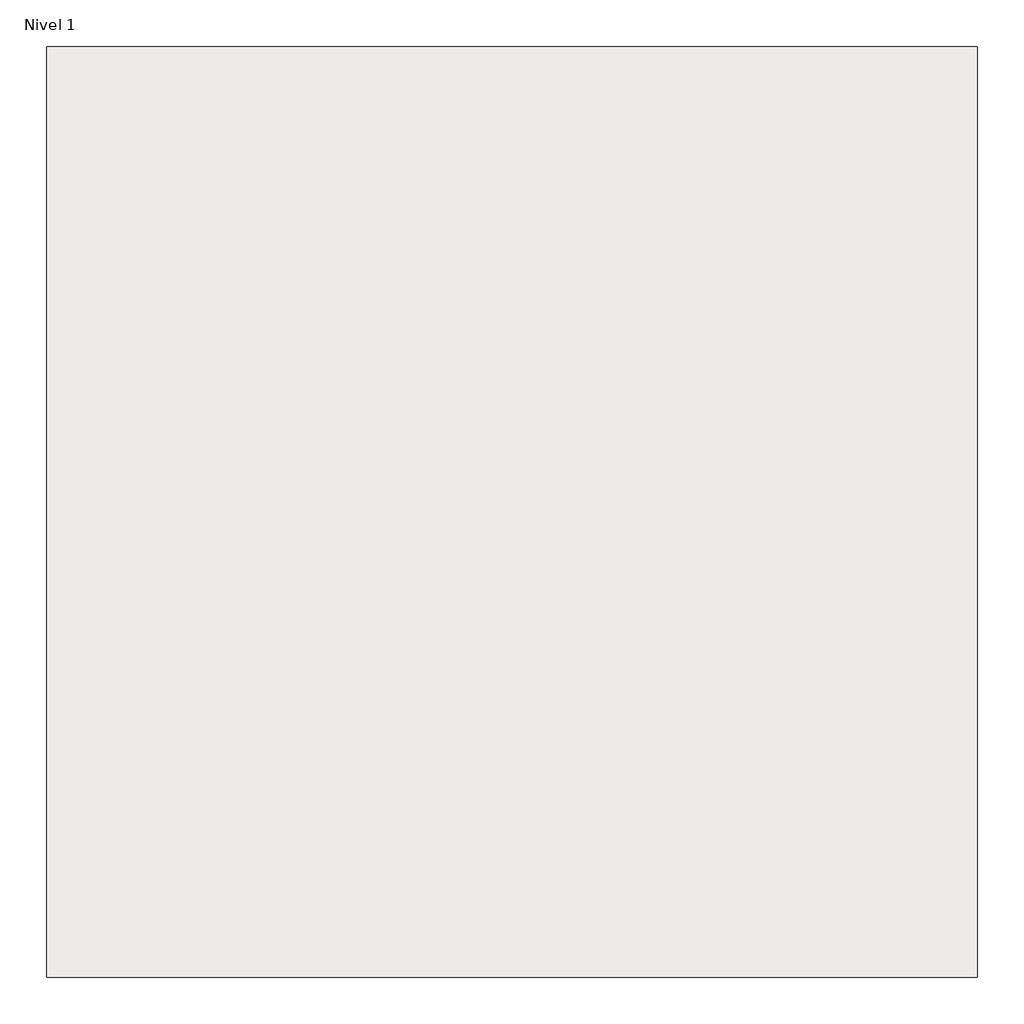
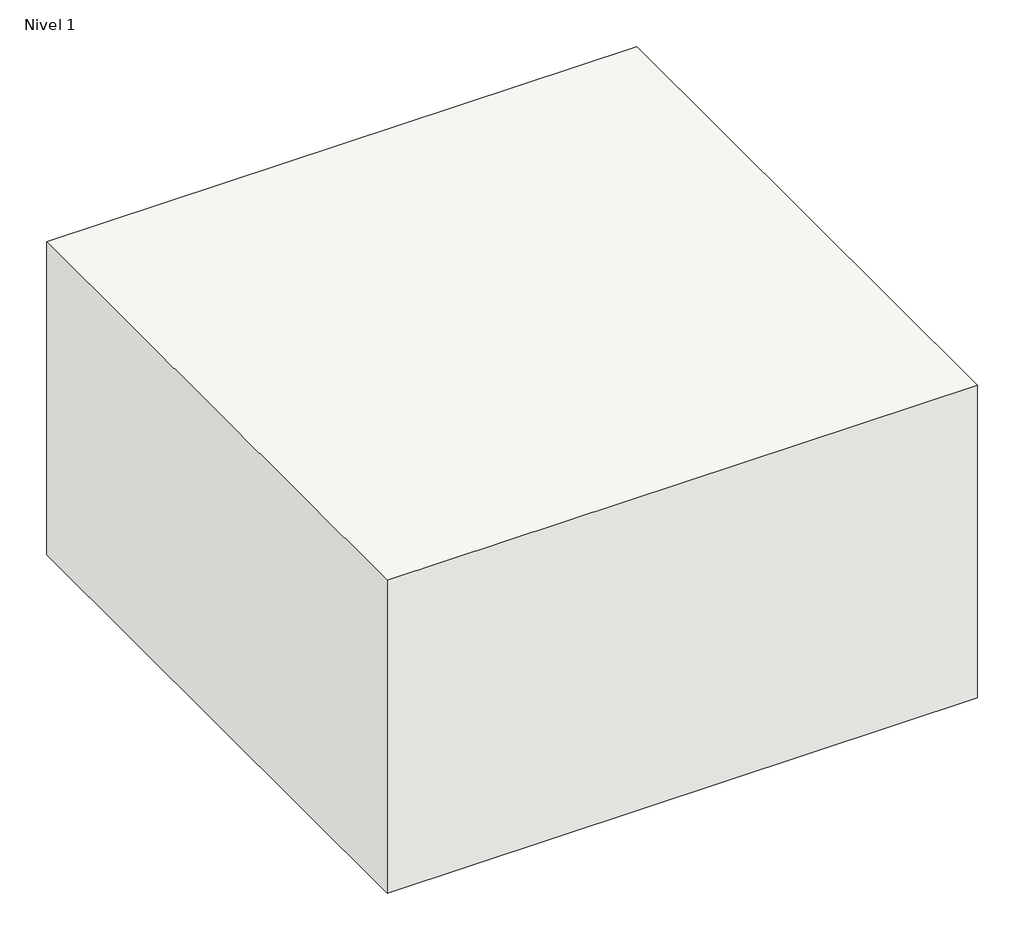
# One storey: 1 roof.
"""IFC4 building model written with IfcOpenShell, lengths in millimetres."""

from ifc_helpers import new_model, si_unit, origin, origin_with_axes, place, context, project, spatial, polyline, outline, extrude, element, save

model = new_model("IFC4")

# Units and contexts
model_context = context("Model", 3, world=origin())
ifc_project = project(units=[si_unit("LENGTHUNIT", "METRE", prefix="MILLI")], contexts=[model_context])

# Site, building, storey
site = spatial("IfcSite", under=ifc_project)
building = spatial("IfcBuilding", under=site)
storey = spatial("IfcBuildingStorey", under=building, Name="Nivel 1", Elevation=0.0)

# Roof
placement = place(None, origin())
element("IfcRoof", 1, ObjectType="Cubierta plana no transitable no ventilada con grava", at=placement, inside=storey, context=model_context, shape_type="SweptSolid", body=[
    extrude(outline(polyline([(-3013.2553136, 4631.8256744), (-3013.2553136, 3631.8256744), (-4013.2553136, 3631.8256744), (-4013.2553136, 4631.8256744), (-3013.2553136, 4631.8256744)])), origin_with_axes(), (0.0, 0.0, 1.0), 560.0),
])

save(model, "model.ifc")
